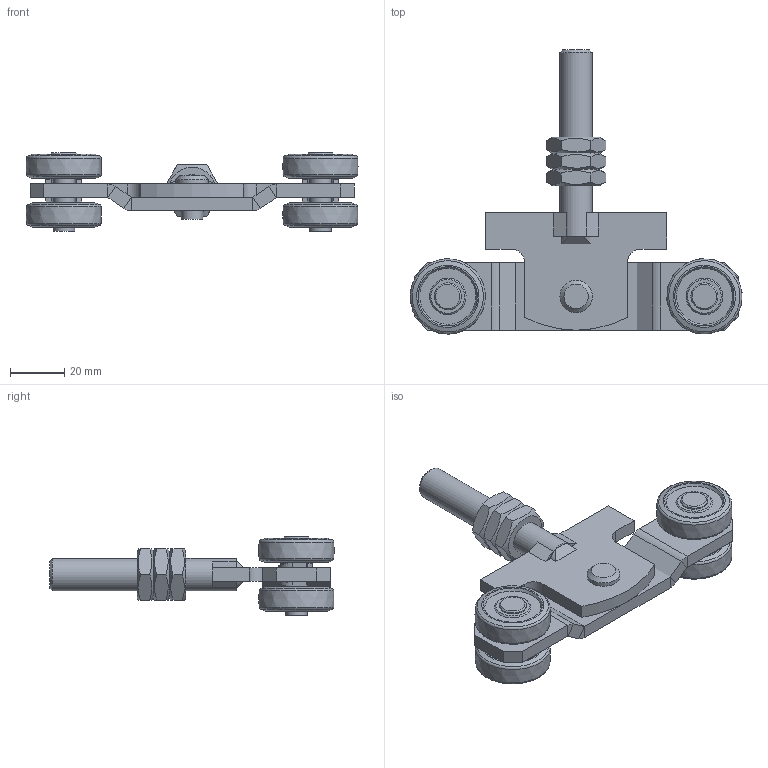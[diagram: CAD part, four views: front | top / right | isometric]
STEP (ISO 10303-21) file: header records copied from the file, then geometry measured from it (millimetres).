
FILE_DESCRIPTION(/* description */ ('Doppelrolle mit Schraub Nr.1'),/* implementation_level */ '2;1');
FILE_NAME(/* name */ 'Q:\sge-ma\Produktmanagement-STB\STB\Workspace\stp\010336972.stp',/* time_stamp */ '2016-07-14T09:39:19+02:00',/* author */ ('avschreier'),/* organization */ (''),/* preprocessor_version */ 'ST-DEVELOPER v16.1',/* originating_system */ 'Autodesk Inventor 2016',/* authorisation */ '');
FILE_SCHEMA (('AUTOMOTIVE_DESIGN { 1 0 10303 214 3 1 1 }'));
Length unit declared in the file: millimetre
Products named in the file (10): 010336972_Schweißnähte; 000302051; 337000120; 000304011; 000302026; 000302238; 336290010; 000303235; DIN_EN_ISO_4035-M12_en; 010336972
Assembly tree (18 placements, depth 2):
  010336972
    010336972_Schweißnähte
    000302051
    337000120
    000304011  x2
    000302026
    000302238
    336290010  x4
    000303235  x4
    DIN_EN_ISO_4035-M12_en  x3
Bounding box: 122.91 x 105.3 x 29 mm (x, y, z)
Volume: 56791.8 mm3; surface area: 30145.2 mm2
Topology: 23 solids, 23 shells, 385 faces, 873 edges, 549 vertices
Faces by surface type: plane 244, cylinder 51, cone 48, bspline 32, torus 10
Full cylindrical faces by diameter (mm): 8 x7, 8.1 x1, 8.3 x1, 10 x2, 10.106 x3, 12 x2
Entity records: 16805 total; most frequent: CARTESIAN_POINT 12637, DIRECTION 844, ORIENTED_EDGE 754, EDGE_CURVE 373, AXIS2_PLACEMENT_3D 307, VERTEX_POINT 246, LINE 230, VECTOR 230
